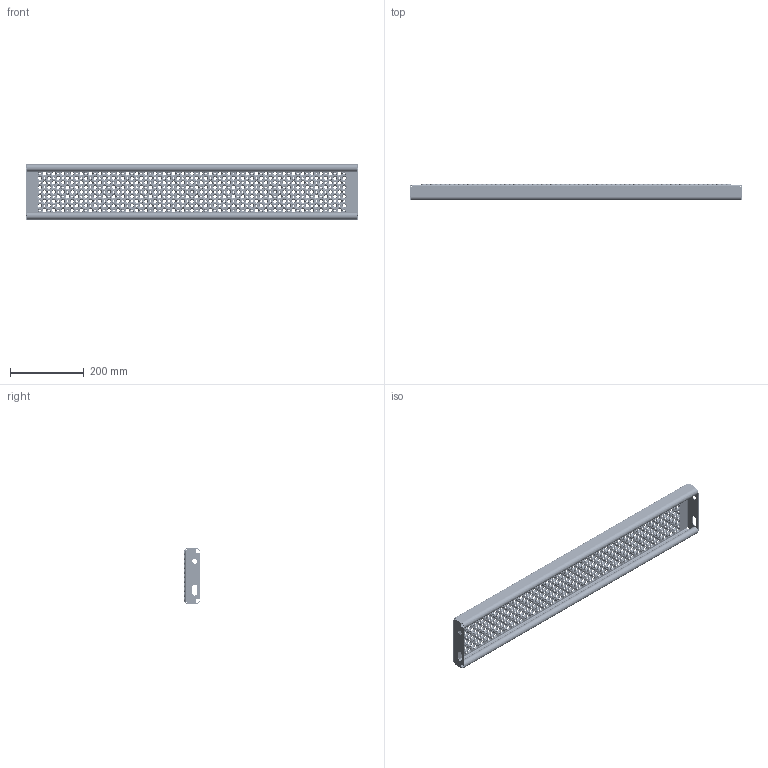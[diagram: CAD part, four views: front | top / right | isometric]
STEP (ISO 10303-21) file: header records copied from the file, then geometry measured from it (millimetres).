
FILE_DESCRIPTION (( 'STEP AP214' ), '1' );
FILE_NAME ('OPTIMO-Tread-Achil-O2-900x150x45x2-st240-F100020100.STEP', '2021-03-15T08:51:18', ( '' ), ( '' ), 'SwSTEP 2.0', 'SolidWorks 2021', '' );
FILE_SCHEMA (( 'AUTOMOTIVE_DESIGN' ));
Length unit declared in the file: millimetre
Products named in the file (1): OPTIMO-Tread-Achil-O2-900x150x45x2-st240-F100020100
Bounding box: 900 x 45 x 150 mm (x, y, z)
Volume: 570652.6 mm3; surface area: 612108.6 mm2
Topology: 1 solids, 1 shells, 7452 faces, 19362 edges, 11912 vertices
Faces by surface type: cone 4422, torus 2948, plane 38, cylinder 36, bspline 8
Entity records: 237280 total; most frequent: DIRECTION 49016, CARTESIAN_POINT 39319, ORIENTED_EDGE 38724, AXIS2_PLACEMENT_3D 22241, EDGE_CURVE 19362, CIRCLE 14796, VERTEX_POINT 11912, EDGE_LOOP 8934
